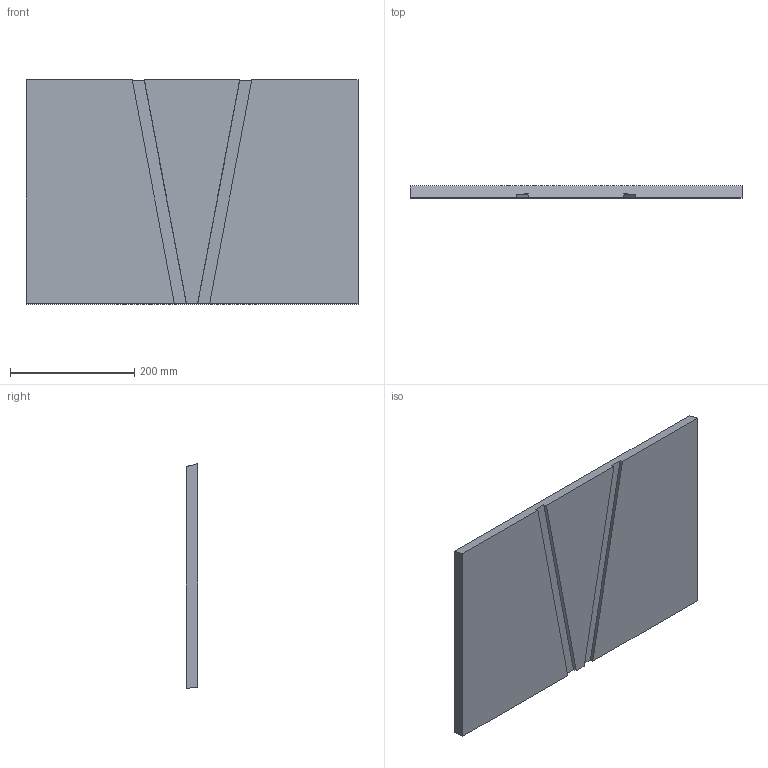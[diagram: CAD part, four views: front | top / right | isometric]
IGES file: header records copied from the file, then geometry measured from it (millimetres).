
Start section:  PTC IGES file: C:\Documents and Settings\Brad\Desktop\IGES\module_top_p anel.igs
Global section: file name: C:\Documents and Settings\Brad\Desktop\IGES\module_top_panel.igs; native system: Brad by Parametric Technology Corporation; preprocessor: 2003250; author: Unknown; organization: PTC; date: 040521.142625; units: inch
Bounding box: 533.4 x 19.05 x 360.87 mm (x, y, z)
Volume: 3552042.2 mm3; surface area: 423977.6 mm2
Topology: 1 solids, 1 shells, 14 faces, 36 edges, 24 vertices
Faces by surface type: bspline 14
